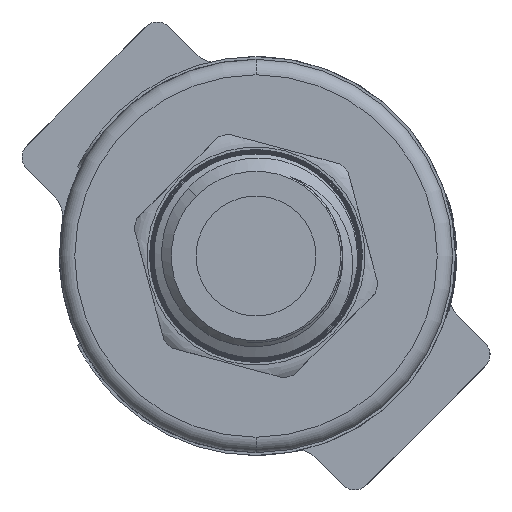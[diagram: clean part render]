
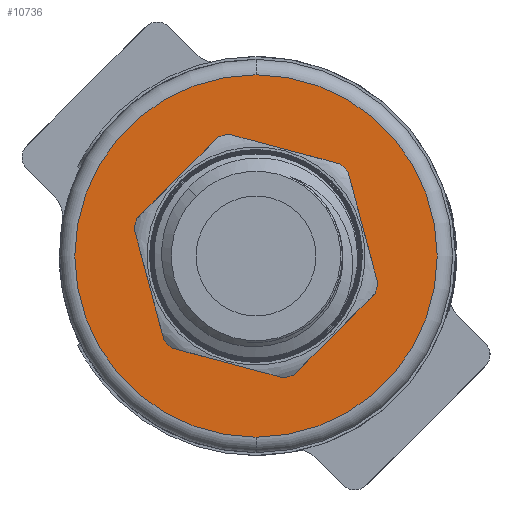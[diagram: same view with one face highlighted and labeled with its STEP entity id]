
A CAD part, front view. The second image highlights one B-rep face of the part: STEP entity #10736.
In plain terms, the highlighted planar face has unit normal (0, -1, 0).
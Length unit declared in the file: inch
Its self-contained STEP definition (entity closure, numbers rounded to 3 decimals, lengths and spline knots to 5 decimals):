
#96 = EDGE_CURVE ( 'NONE', #2830, #13254, #636, .T. ) ;
#491 = CARTESIAN_POINT ( 'NONE',  ( 0., 0.15748, 0.1875 ) ) ;
#636 = CIRCLE ( 'NONE', #16156, 0.46063 ) ;
#840 = PLANE ( 'NONE',  #1556 ) ;
#1058 = CIRCLE ( 'NONE', #19140, 0.1875 ) ;
#1289 = CARTESIAN_POINT ( 'NONE',  ( 0., 0.15748, -0.46063 ) ) ;
#1556 = AXIS2_PLACEMENT_3D ( 'NONE', #18148, #13496, #19459 ) ;
#1905 = DIRECTION ( 'NONE',  ( 0., -1., 0. ) ) ;
#2007 = CARTESIAN_POINT ( 'NONE',  ( 0., 0.15748, 0. ) ) ;
#2491 = AXIS2_PLACEMENT_3D ( 'NONE', #2007, #1905, #11135 ) ;
#2830 = VERTEX_POINT ( 'NONE', #12586 ) ;
#3368 = ORIENTED_EDGE ( 'NONE', *, *, #9099, .T. ) ;
#4102 = CIRCLE ( 'NONE', #2491, 0.46063 ) ;
#4557 = EDGE_CURVE ( 'NONE', #7315, #7785, #8756, .T. ) ;
#4778 = EDGE_LOOP ( 'NONE', ( #3368, #8955 ) ) ;
#6422 = EDGE_CURVE ( 'NONE', #7785, #7315, #1058, .T. ) ;
#6437 = CARTESIAN_POINT ( 'NONE',  ( 0., 0.15748, -0.1875 ) ) ;
#6700 = ORIENTED_EDGE ( 'NONE', *, *, #4557, .F. ) ;
#7315 = VERTEX_POINT ( 'NONE', #491 ) ;
#7379 = DIRECTION ( 'NONE',  ( 0., -1., 0. ) ) ;
#7583 = DIRECTION ( 'NONE',  ( 0., 0., -1. ) ) ;
#7785 = VERTEX_POINT ( 'NONE', #6437 ) ;
#8756 = CIRCLE ( 'NONE', #13952, 0.1875 ) ;
#8955 = ORIENTED_EDGE ( 'NONE', *, *, #96, .T. ) ;
#9099 = EDGE_CURVE ( 'NONE', #13254, #2830, #4102, .T. ) ;
#10736 = ADVANCED_FACE ( 'NONE', ( #11987, #11885 ), #840, .T. ) ;
#10836 = CARTESIAN_POINT ( 'NONE',  ( 0., 0.15748, 0. ) ) ;
#11135 = DIRECTION ( 'NONE',  ( 0., 0., -1. ) ) ;
#11885 = FACE_BOUND ( 'NONE', #13535, .T. ) ;
#11987 = FACE_OUTER_BOUND ( 'NONE', #4778, .T. ) ;
#12586 = CARTESIAN_POINT ( 'NONE',  ( 0., 0.15748, 0.46063 ) ) ;
#13254 = VERTEX_POINT ( 'NONE', #1289 ) ;
#13496 = DIRECTION ( 'NONE',  ( 0., -1., 0. ) ) ;
#13535 = EDGE_LOOP ( 'NONE', ( #19048, #6700 ) ) ;
#13952 = AXIS2_PLACEMENT_3D ( 'NONE', #10836, #7379, #7583 ) ;
#15458 = CARTESIAN_POINT ( 'NONE',  ( 0., 0.15748, 0. ) ) ;
#16156 = AXIS2_PLACEMENT_3D ( 'NONE', #17308, #17207, #18718 ) ;
#17207 = DIRECTION ( 'NONE',  ( 0., -1., 0. ) ) ;
#17308 = CARTESIAN_POINT ( 'NONE',  ( 0., 0.15748, 0. ) ) ;
#18148 = CARTESIAN_POINT ( 'NONE',  ( 0., 0.15748, 0. ) ) ;
#18588 = DIRECTION ( 'NONE',  ( 0., 0., -1. ) ) ;
#18686 = DIRECTION ( 'NONE',  ( 0., -1., 0. ) ) ;
#18718 = DIRECTION ( 'NONE',  ( 0., 0., -1. ) ) ;
#19048 = ORIENTED_EDGE ( 'NONE', *, *, #6422, .F. ) ;
#19140 = AXIS2_PLACEMENT_3D ( 'NONE', #15458, #18686, #18588 ) ;
#19459 = DIRECTION ( 'NONE',  ( 0., 0., -1. ) ) ;
